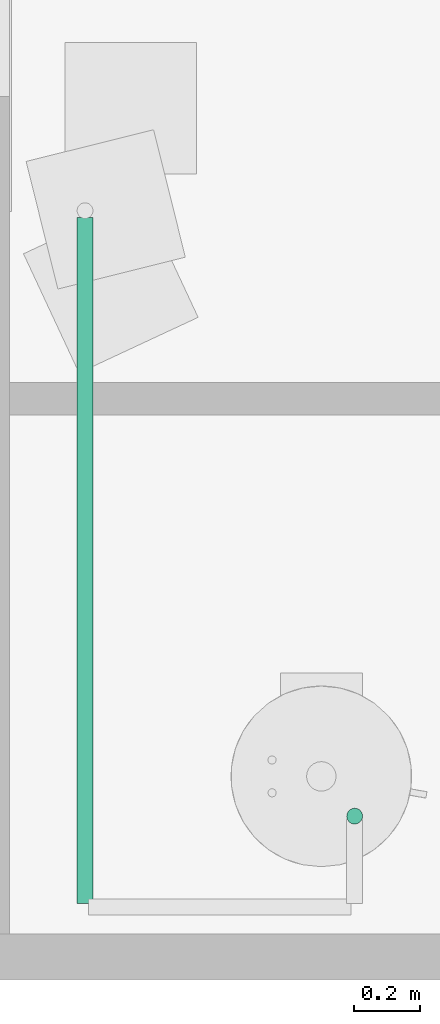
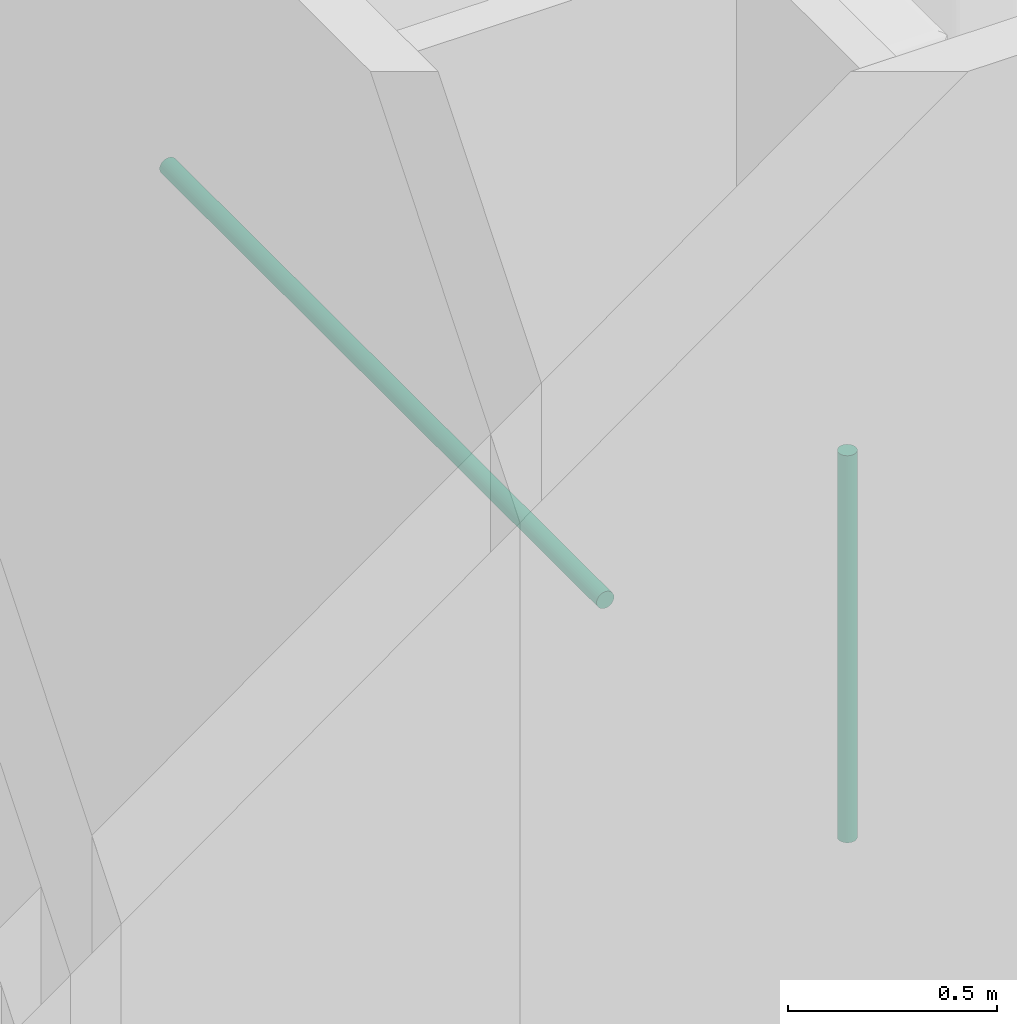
# One storey, part 23 of 72: 2 pipe segments.
"""IFC4 building model written with IfcOpenShell, lengths in centimetres."""

from ifc_helpers import new_model, entity, si_unit, converted_unit, derived_unit, direction, frame, origin, place, context, subcontext, project, spatial, arc, indexed_curve, outline, extrude, type_object, element, save


model = new_model("IFC4")

# Units and contexts
model_context = context("Model", 3, precision=0.001, world=origin(), true_north=direction((6.123233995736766e-17, 1.0)))
body_context = subcontext(model_context, "Body", "Model", "MODEL_VIEW")
ifc_project = project(units=[si_unit("LENGTHUNIT", "METRE", prefix="CENTI"), si_unit("AREAUNIT", "SQUARE_METRE"), si_unit("VOLUMEUNIT", "CUBIC_METRE"), derived_unit("THERMALTRANSMITTANCEUNIT", [(si_unit("MASSUNIT", "GRAM", prefix="KILO"), 1), (si_unit("THERMODYNAMICTEMPERATUREUNIT", "KELVIN"), -1), (si_unit("TIMEUNIT", "SECOND"), -3)]), converted_unit("PLANEANGLEUNIT", "DEGREE", entity("IfcPlaneAngleMeasure", 0.017453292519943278), si_unit("PLANEANGLEUNIT", "RADIAN"), dimensions=[0, 0, 0, 0, 0, 0, 0]), derived_unit("MASSDENSITYUNIT", [(si_unit("MASSUNIT", "GRAM", prefix="KILO"), 1), (si_unit("LENGTHUNIT", "METRE"), -3)]), derived_unit("VAPORPERMEABILITYUNIT", [(si_unit("LENGTHUNIT", "METRE"), -1), (si_unit("TIMEUNIT", "SECOND"), 1)]), derived_unit("USERDEFINED", [(si_unit("MASSUNIT", "GRAM", prefix="KILO"), 1), (si_unit("TIMEUNIT", "SECOND"), -3), (si_unit("LENGTHUNIT", "METRE"), 3), (si_unit("ELECTRICCURRENTUNIT", "AMPERE"), -2)]), derived_unit("SPECIFICHEATCAPACITYUNIT", [(si_unit("THERMODYNAMICTEMPERATUREUNIT", "KELVIN"), -1), (si_unit("LENGTHUNIT", "METRE"), 2), (si_unit("TIMEUNIT", "SECOND"), -2)]), derived_unit("THERMALCONDUCTANCEUNIT", [(si_unit("MASSUNIT", "GRAM", prefix="KILO"), 1), (si_unit("THERMODYNAMICTEMPERATUREUNIT", "KELVIN"), -1), (si_unit("TIMEUNIT", "SECOND"), -3), (si_unit("LENGTHUNIT", "METRE"), 1)]), si_unit("PRESSUREUNIT", "PASCAL"), derived_unit("MODULUSOFELASTICITYUNIT", [(si_unit("MASSUNIT", "GRAM", prefix="KILO"), 1), (si_unit("LENGTHUNIT", "METRE"), -1), (si_unit("TIMEUNIT", "SECOND"), -2)]), derived_unit("THERMALEXPANSIONCOEFFICIENTUNIT", [(si_unit("THERMODYNAMICTEMPERATUREUNIT", "KELVIN"), -1)])], contexts=[model_context])

# Site, building, storey
site_placement = place(None, origin())
site = spatial("IfcSite", under=ifc_project, at=site_placement, Name="Default", CompositionType="ELEMENT")
building_placement = place(site_placement, origin())
building = spatial("IfcBuilding", under=site, at=building_placement, Name="IDS Escape Game Building", CompositionType="ELEMENT")
storey_placement = place(building_placement, frame((0.0, 0.0, 800.0)))
storey = spatial("IfcBuildingStorey", under=building, at=storey_placement, Name="02_Second Floor", CompositionType="ELEMENT", Elevation=800.0)

# Pipe segments
pipe_segment_type = type_object("IfcPipeSegmentType", Name="Pipe Types:Piping Aluminum", PredefinedType="NOTDEFINED")
pipe_segment_1_placement = place(storey_placement, origin())
element("IfcPipeSegment", 1, at=pipe_segment_1_placement, inside=storey, type_object=pipe_segment_type, Name="Pipe Types:Piping Aluminum", ObjectType="Pipe Types:Piping Aluminum", PredefinedType="NOTDEFINED", context=body_context, shape_type="SweptSolid", body=[
    extrude(outline(indexed_curve([(2.412999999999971, 0.0), (1.7062486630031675, 1.7062486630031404), (0.0, 2.412999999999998), (-1.7062486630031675, 1.7062486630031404), (-2.412999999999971, 6.767919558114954e-15), (-1.7062486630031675, -1.7062486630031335), (0.0, -2.412999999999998), (1.7062486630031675, -1.706248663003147)], segments=[arc(1, 2, 3), arc(3, 4, 5), arc(5, 6, 7), arc(7, 8, 1)], self_intersect=False)), frame((3064.1500000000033, 48.90000000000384, 128.0), z_axis=(0.0, 0.0, 1.0), x_axis=(-1.0, 0.0, 0.0)), (0.0, 0.0, 1.0), 112.90000000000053),
])
pipe_segment_2_placement = place(storey_placement, origin())
element("IfcPipeSegment", 2, at=pipe_segment_2_placement, inside=storey, type_object=pipe_segment_type, Name="Pipe Types:Piping Aluminum", ObjectType="Pipe Types:Piping Aluminum", PredefinedType="NOTDEFINED", context=body_context, shape_type="SweptSolid", body=[
    extrude(outline(indexed_curve([(2.412999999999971, 0.0), (1.7062486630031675, 1.7062486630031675), (0.0, 2.412999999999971), (-1.7062486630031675, 1.7062486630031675), (-2.412999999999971, 0.0), (-1.7062486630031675, -1.7062486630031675), (0.0, -2.412999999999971), (1.7062486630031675, -1.7062486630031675)], segments=[arc(1, 2, 3), arc(3, 4, 5), arc(5, 6, 7), arc(7, 8, 1)], self_intersect=False)), frame((2982.046716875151, 22.36482792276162, 242.0), z_axis=(0.0, 1.0, 0.0), x_axis=(1.0, 0.0, 0.0)), (0.0, 0.0, 1.0), 208.80000000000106),
])

save(model, "model.ifc")
